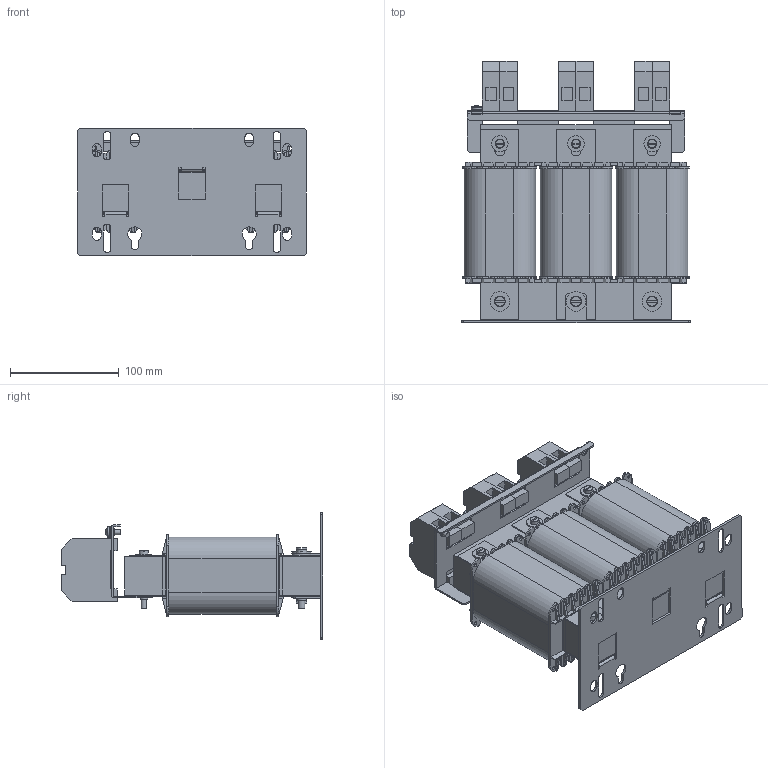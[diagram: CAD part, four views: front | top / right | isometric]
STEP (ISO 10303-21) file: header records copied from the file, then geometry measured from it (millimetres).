
FILE_DESCRIPTION (( 'STEP AP214' ), '1' );
FILE_NAME ('PCT-080.STEP', '2015-04-28T10:43:19', ( 'EDV' ), ( 'Microsoft' ), 'SwSTEP 2.0', 'SolidWorks 2014', '' );
FILE_SCHEMA (( 'AUTOMOTIVE_DESIGN' ));
Length unit declared in the file: millimetre
Products named in the file (19): curved spring lock washer_din_Spring washer DIN 128 - A5; PCT-080; plain washer grade a_din_Washer DIN 125 - A 5.3; pan head cross recess screw_din_ISO 7045 - M5 x 10 - Z --- 10N; slotted cheese head screw_din_ISO 1207 - M6 x 50 --- 50N; slotted cheese head screw_din_ISO 1207 - M5 x 50 --- 38N; plain washer large_din_Washer DIN 9021 - 6.4; plain washer large_din_Washer DIN 9021 - 5.3; 3UI105-37,5_Luftspalt oben und unten 2,5mm; Wickel 3UI 105_37,5; UI105-37,5oD; #040-0193; Baugruppe #040-1114; Klemmblech #040-1114; RK35_35N; Kopfwinkel #040-1114; hex nut style 1 gradeab_din_Hexagon Nut ISO 4032 - M6 - D - N; #040-1191; Kombischraube M5x10
Assembly tree (41 placements, depth 3):
  PCT-080
    #040-1191
    Baugruppe #040-1114
      Kopfwinkel #040-1114
      Klemmblech #040-1114
    #040-0193  x6
    UI105-37,5oD  x3
    Wickel 3UI 105_37,5  x3
    3UI105-37,5_Luftspalt oben und unten 2,5mm
    plain washer large_din_Washer DIN 9021 - 5.3  x3
    plain washer large_din_Washer DIN 9021 - 6.4  x4
    slotted cheese head screw_din_ISO 1207 - M5 x 50 --- 38N  x3
    slotted cheese head screw_din_ISO 1207 - M6 x 50 --- 50N  x3
    Kombischraube M5x10
      pan head cross recess screw_din_ISO 7045 - M5 x 10 - Z --- 10N
      plain washer grade a_din_Washer DIN 125 - A 5.3
      curved spring lock washer_din_Spring washer DIN 128 - A5
    hex nut style 1 gradeab_din_Hexagon Nut ISO 4032 - M6 - D - N
    RK35_35N  x6
Bounding box: 210 x 240.6 x 117 mm (x, y, z)
Volume: 2132515.6 mm3; surface area: 661232.3 mm2
Topology: 45 solids, 45 shells, 2186 faces, 5758 edges, 3746 vertices
Faces by surface type: plane 1582, cylinder 460, bspline 90, torus 28, cone 25, sphere 1
Full cylindrical faces by diameter (mm): 2.779 x1, 3 x24, 3.95 x2, 4.2 x5, 4.5 x2, 5 x5, 5.3 x4, 5.5 x2, 6 x4, 6.4 x4, 6.95 x1, 7 x17, 7.15 x1, 7.6 x1, 8.5 x14, 9.5 x1, 10 x1, 15 x3, 18 x4
Entity records: 47187 total; most frequent: CARTESIAN_POINT 12542, ORIENTED_EDGE 6392, DIRECTION 5811, EDGE_CURVE 3196, LINE 2503, VECTOR 2503, VERTEX_POINT 2113, AXIS2_PLACEMENT_3D 1654
